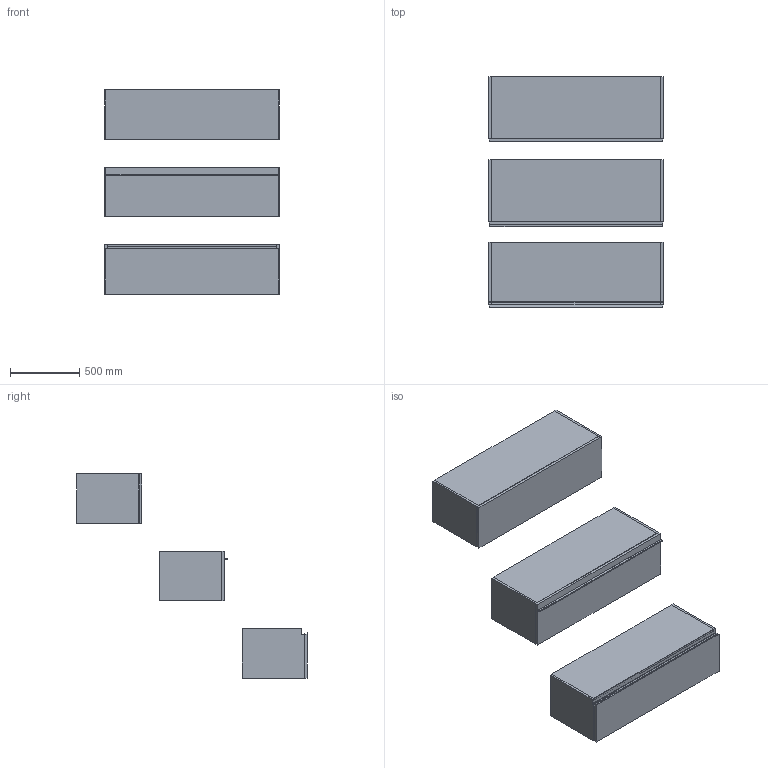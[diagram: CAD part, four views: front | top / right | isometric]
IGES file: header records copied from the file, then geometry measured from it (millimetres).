
Start section: Data from Parasolid IGES Translator 19.0.9, Copyright(c) 2006 Siemens PL M Software. All Rights Reserved.
Global section: file name: noorth-SI-H 36 D 47 W 126_8354.igs; native system: By Siemens PLM Incorporated; preprocessor: XPlus GENERIC/IGES 19.0.9; author: Noname; organization: Noname; date: 20200601.093736; units: metre
Bounding box: 1260.01 x 1669.1 x 1480 mm (x, y, z)
Volume: 96567672.3 mm3; surface area: 14442959 mm2
Topology: 20 solids, 20 shells, 178 faces, 382 edges, 234 vertices
Faces by surface type: plane 134, extrusion 16, bspline 16, cylinder 12
